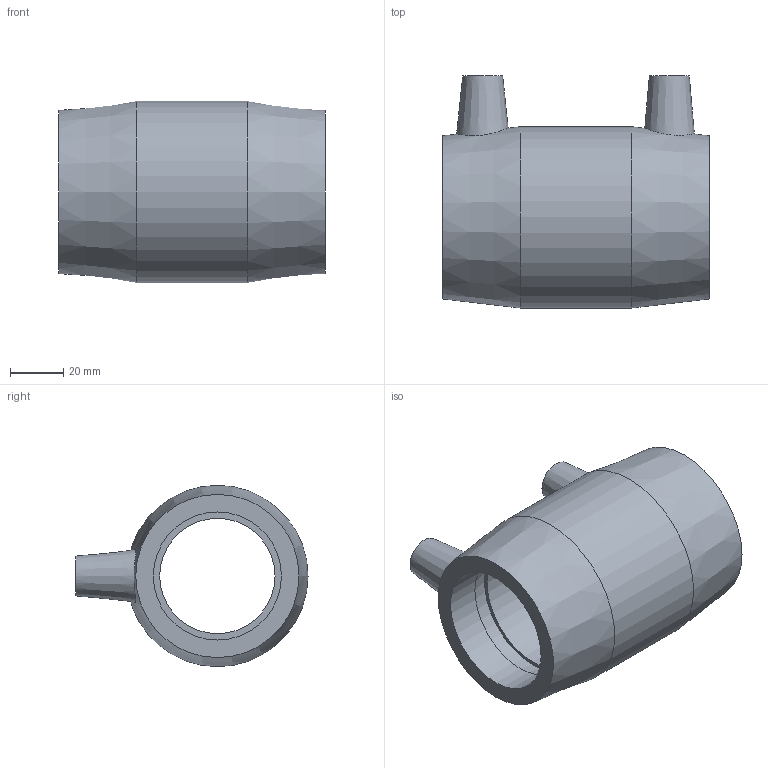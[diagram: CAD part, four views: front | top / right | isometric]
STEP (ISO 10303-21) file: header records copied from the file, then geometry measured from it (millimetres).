
FILE_DESCRIPTION(/* description */ ('PLASSON REDUCING COUPLING ADAPTOR 50-1 1/2''''IPS'),/* implementation_level */ '2;1');
FILE_NAME(/* name */ 'C:\Dropbox\KIMPROJECTS-Inventor 2019\99-16-3568-Processing Inch\ASTM ElectroFusion 2021\4911N\4911N4050040.ipt.stp',/* time_stamp */ '2021-08-30T09:47:58+03:00',/* author */ ('KIM'),/* organization */ (''),/* preprocessor_version */ 'ST-DEVELOPER v17.2',/* originating_system */ 'Autodesk Inventor 2019',/* authorisation */ '');
FILE_SCHEMA (('AUTOMOTIVE_DESIGN { 1 0 10303 214 3 1 1 }'));
Length unit declared in the file: inch
Products named in the file (1): 4911N4050040
Bounding box: 100.08 x 87.12 x 68.07 mm (x, y, z)
Volume: 161899.5 mm3; surface area: 42892.3 mm2
Topology: 1 solids, 1 shells, 29 faces, 66 edges, 49 vertices
Faces by surface type: plane 12, cylinder 10, cone 7
Full cylindrical faces by diameter (mm): 4 x2, 10 x2, 43.29 x1, 48.1 x2, 50 x2, 68.072 x1
Entity records: 972 total; most frequent: CARTESIAN_POINT 213, DIRECTION 167, ORIENTED_EDGE 132, AXIS2_PLACEMENT_3D 75, EDGE_CURVE 66, VERTEX_POINT 49, CIRCLE 45, EDGE_LOOP 41
